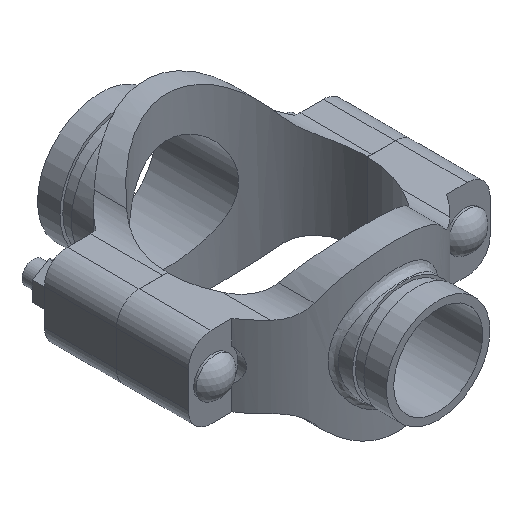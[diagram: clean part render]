
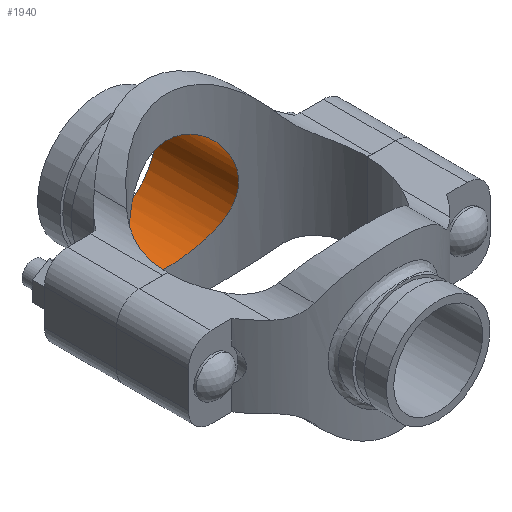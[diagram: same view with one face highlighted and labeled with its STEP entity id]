
A CAD part, isometric view. The second image highlights one B-rep face of the part: STEP entity #1940.
In plain terms, the highlighted cylindrical face has radius 38.894 mm (diameter 77.787 mm), a full revolution.
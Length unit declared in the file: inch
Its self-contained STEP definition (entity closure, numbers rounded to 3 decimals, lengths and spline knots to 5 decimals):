
#33=B_SPLINE_CURVE_WITH_KNOTS('',3,(#3290,#3291,#3292,#3293,#3294,#3295,
#3296,#3297,#3298,#3299,#3300,#3301,#3302,#3303,#3304,#3305,#3306,#3307,
#3308,#3309,#3310,#3311,#3312,#3313,#3314,#3315,#3316,#3317,#3318,#3319,
#3320,#3321,#3322,#3323,#3324,#3325,#3326,#3327,#3328,#3329,#3330,#3331,
#3332,#3333,#3334,#3335,#3336,#3337,#3338,#3339,#3340,#3341,#3342,#3343,
#3344,#3345,#3346,#3347,#3348,#3349,#3350,#3351,#3352,#3353,#3354,#3355),
 .UNSPECIFIED.,.T.,.F.,(4,2,2,2,2,2,2,2,2,2,2,2,2,2,2,2,2,2,2,2,2,2,2,2,
2,2,2,2,2,2,2,2,4),(0.,0.75292,1.50585,2.25877,
3.01169,3.76141,4.51112,5.26084,6.01055,
6.76027,7.50998,8.2597,9.00941,9.76233,
10.51526,11.26818,12.0211,12.77403,13.52695,
14.27988,15.0328,15.78251,16.53223,17.28194,
18.03166,18.78137,19.53109,20.2808,21.03051,
21.78344,22.53636,23.28928,24.04221),
 .UNSPECIFIED.);
#73=CYLINDRICAL_SURFACE('',#2138,1.53125);
#172=FACE_OUTER_BOUND('',#285,.T.);
#285=EDGE_LOOP('',(#1372,#1373,#1374,#1375));
#430=LINE('',#3289,#578);
#578=VECTOR('',#2470,1.53125);
#695=CIRCLE('',#2139,1.53125);
#824=VERTEX_POINT('',#3286);
#825=VERTEX_POINT('',#3288);
#1034=EDGE_CURVE('',#824,#824,#695,.T.);
#1035=EDGE_CURVE('',#824,#825,#430,.T.);
#1036=EDGE_CURVE('',#825,#825,#33,.T.);
#1372=ORIENTED_EDGE('',*,*,#1034,.F.);
#1373=ORIENTED_EDGE('',*,*,#1035,.T.);
#1374=ORIENTED_EDGE('',*,*,#1036,.F.);
#1375=ORIENTED_EDGE('',*,*,#1035,.F.);
#1940=ADVANCED_FACE('',(#172),#73,.F.);
#2138=AXIS2_PLACEMENT_3D('',#3285,#2466,#2467);
#2139=AXIS2_PLACEMENT_3D('',#3287,#2468,#2469);
#2466=DIRECTION('center_axis',(0.,-1.,0.));
#2467=DIRECTION('ref_axis',(-1.,0.,0.));
#2468=DIRECTION('center_axis',(0.,-1.,0.));
#2469=DIRECTION('ref_axis',(-1.,0.,0.));
#2470=DIRECTION('',(0.,-1.,0.));
#3285=CARTESIAN_POINT('Origin',(0.,4.63,0.));
#3286=CARTESIAN_POINT('',(1.53125,4.63,0.));
#3287=CARTESIAN_POINT('Origin',(0.,4.63,0.));
#3288=CARTESIAN_POINT('',(1.53125,2.32207,0.));
#3289=CARTESIAN_POINT('',(1.53125,4.63,0.));
#3290=CARTESIAN_POINT('Ctrl Pts',(1.53125,2.32207,0.));
#3291=CARTESIAN_POINT('Ctrl Pts',(1.53125,2.32207,-0.09881));
#3292=CARTESIAN_POINT('Ctrl Pts',(1.52154,2.32857,-0.20002));
#3293=CARTESIAN_POINT('Ctrl Pts',(1.48167,2.35414,-0.39969));
#3294=CARTESIAN_POINT('Ctrl Pts',(1.45153,2.37316,-0.49815));
#3295=CARTESIAN_POINT('Ctrl Pts',(1.37285,2.41953,-0.68583));
#3296=CARTESIAN_POINT('Ctrl Pts',(1.32426,2.44684,-0.77524));
#3297=CARTESIAN_POINT('Ctrl Pts',(1.21269,2.50401,-0.94023));
#3298=CARTESIAN_POINT('Ctrl Pts',(1.1497,2.53381,-1.01581));
#3299=CARTESIAN_POINT('Ctrl Pts',(1.0161,2.59027,-1.14942));
#3300=CARTESIAN_POINT('Ctrl Pts',(0.94066,2.61905,-1.21236));
#3301=CARTESIAN_POINT('Ctrl Pts',(0.77562,2.67258,-1.32404));
#3302=CARTESIAN_POINT('Ctrl Pts',(0.68601,2.69729,-1.37278));
#3303=CARTESIAN_POINT('Ctrl Pts',(0.49791,2.73826,-1.45162));
#3304=CARTESIAN_POINT('Ctrl Pts',(0.39923,2.75453,-1.48179));
#3305=CARTESIAN_POINT('Ctrl Pts',(0.19947,2.77616,-1.52161));
#3306=CARTESIAN_POINT('Ctrl Pts',(0.09839,2.7815,-1.53125));
#3307=CARTESIAN_POINT('Ctrl Pts',(-0.09839,2.7815,-1.53125));
#3308=CARTESIAN_POINT('Ctrl Pts',(-0.19947,2.77616,-1.52161));
#3309=CARTESIAN_POINT('Ctrl Pts',(-0.39923,2.75453,-1.48179));
#3310=CARTESIAN_POINT('Ctrl Pts',(-0.49791,2.73826,-1.45162));
#3311=CARTESIAN_POINT('Ctrl Pts',(-0.68601,2.69729,-1.37278));
#3312=CARTESIAN_POINT('Ctrl Pts',(-0.77562,2.67258,-1.32404));
#3313=CARTESIAN_POINT('Ctrl Pts',(-0.94066,2.61905,-1.21236));
#3314=CARTESIAN_POINT('Ctrl Pts',(-1.0161,2.59027,-1.14942));
#3315=CARTESIAN_POINT('Ctrl Pts',(-1.1497,2.53381,-1.01581));
#3316=CARTESIAN_POINT('Ctrl Pts',(-1.21269,2.50401,-0.94023));
#3317=CARTESIAN_POINT('Ctrl Pts',(-1.32426,2.44684,-0.77524));
#3318=CARTESIAN_POINT('Ctrl Pts',(-1.37285,2.41953,-0.68583));
#3319=CARTESIAN_POINT('Ctrl Pts',(-1.45153,2.37316,-0.49815));
#3320=CARTESIAN_POINT('Ctrl Pts',(-1.48167,2.35414,-0.39969));
#3321=CARTESIAN_POINT('Ctrl Pts',(-1.52154,2.32857,-0.20002));
#3322=CARTESIAN_POINT('Ctrl Pts',(-1.53125,2.32207,-0.09881));
#3323=CARTESIAN_POINT('Ctrl Pts',(-1.53125,2.32207,0.09881));
#3324=CARTESIAN_POINT('Ctrl Pts',(-1.52154,2.32857,0.20002));
#3325=CARTESIAN_POINT('Ctrl Pts',(-1.48167,2.35414,0.39969));
#3326=CARTESIAN_POINT('Ctrl Pts',(-1.45153,2.37316,0.49815));
#3327=CARTESIAN_POINT('Ctrl Pts',(-1.37285,2.41953,0.68583));
#3328=CARTESIAN_POINT('Ctrl Pts',(-1.32426,2.44684,0.77524));
#3329=CARTESIAN_POINT('Ctrl Pts',(-1.21269,2.50401,0.94023));
#3330=CARTESIAN_POINT('Ctrl Pts',(-1.1497,2.53381,1.01581));
#3331=CARTESIAN_POINT('Ctrl Pts',(-1.0161,2.59027,1.14942));
#3332=CARTESIAN_POINT('Ctrl Pts',(-0.94066,2.61905,1.21236));
#3333=CARTESIAN_POINT('Ctrl Pts',(-0.77562,2.67258,1.32404));
#3334=CARTESIAN_POINT('Ctrl Pts',(-0.68601,2.69729,1.37278));
#3335=CARTESIAN_POINT('Ctrl Pts',(-0.49791,2.73826,1.45162));
#3336=CARTESIAN_POINT('Ctrl Pts',(-0.39923,2.75453,1.48179));
#3337=CARTESIAN_POINT('Ctrl Pts',(-0.19947,2.77616,1.52161));
#3338=CARTESIAN_POINT('Ctrl Pts',(-0.09839,2.7815,1.53125));
#3339=CARTESIAN_POINT('Ctrl Pts',(0.09839,2.7815,1.53125));
#3340=CARTESIAN_POINT('Ctrl Pts',(0.19947,2.77616,1.52161));
#3341=CARTESIAN_POINT('Ctrl Pts',(0.39923,2.75453,1.48179));
#3342=CARTESIAN_POINT('Ctrl Pts',(0.49791,2.73826,1.45162));
#3343=CARTESIAN_POINT('Ctrl Pts',(0.68601,2.69729,1.37278));
#3344=CARTESIAN_POINT('Ctrl Pts',(0.77562,2.67258,1.32404));
#3345=CARTESIAN_POINT('Ctrl Pts',(0.94066,2.61905,1.21236));
#3346=CARTESIAN_POINT('Ctrl Pts',(1.0161,2.59027,1.14942));
#3347=CARTESIAN_POINT('Ctrl Pts',(1.1497,2.53381,1.01581));
#3348=CARTESIAN_POINT('Ctrl Pts',(1.21269,2.50401,0.94023));
#3349=CARTESIAN_POINT('Ctrl Pts',(1.32426,2.44684,0.77524));
#3350=CARTESIAN_POINT('Ctrl Pts',(1.37285,2.41953,0.68583));
#3351=CARTESIAN_POINT('Ctrl Pts',(1.45153,2.37316,0.49815));
#3352=CARTESIAN_POINT('Ctrl Pts',(1.48167,2.35414,0.39969));
#3353=CARTESIAN_POINT('Ctrl Pts',(1.52154,2.32857,0.20002));
#3354=CARTESIAN_POINT('Ctrl Pts',(1.53125,2.32207,0.09881));
#3355=CARTESIAN_POINT('Ctrl Pts',(1.53125,2.32207,0.));
